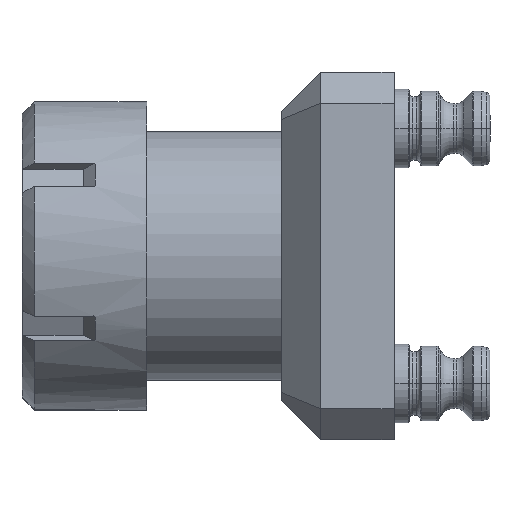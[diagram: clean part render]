
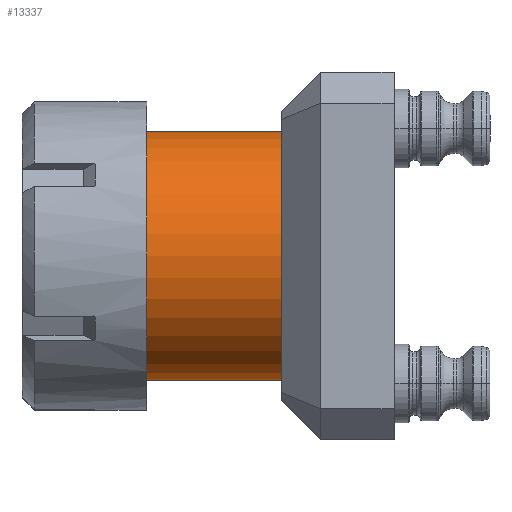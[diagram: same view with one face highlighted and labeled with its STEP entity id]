
A CAD part, left-side view. The second image highlights one B-rep face of the part: STEP entity #13337.
In plain terms, the highlighted cylindrical face has radius 25.4 mm (diameter 50.8 mm), a partial arc.
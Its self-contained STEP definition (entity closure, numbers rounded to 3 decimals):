
#85 = VERTEX_POINT ( 'NONE', #32307 ) ;
#262 = DIRECTION ( 'NONE',  ( 0., -1., 0. ) ) ;
#4504 = CIRCLE ( 'NONE', #30077, 25.4 ) ;
#4824 = EDGE_CURVE ( 'NONE', #85, #24536, #4504, .T. ) ;
#5232 = LINE ( 'NONE', #17178, #19314 ) ;
#5793 = LINE ( 'NONE', #19483, #27288 ) ;
#5929 = CARTESIAN_POINT ( 'NONE',  ( 0., -12.7, 0. ) ) ;
#6576 = DIRECTION ( 'NONE',  ( 0., -1., 0. ) ) ;
#8258 = DIRECTION ( 'NONE',  ( 0., -1., 0. ) ) ;
#8653 = CARTESIAN_POINT ( 'NONE',  ( 0., 19.05, 0. ) ) ;
#8705 = DIRECTION ( 'NONE',  ( 0., 0., -1. ) ) ;
#9249 = CARTESIAN_POINT ( 'NONE',  ( 0., 38.1, 0. ) ) ;
#9898 = AXIS2_PLACEMENT_3D ( 'NONE', #5929, #25542, #8705 ) ;
#10341 = CARTESIAN_POINT ( 'NONE',  ( 0., 19.05, 25.4 ) ) ;
#10722 = ORIENTED_EDGE ( 'NONE', *, *, #31108, .T. ) ;
#11510 = DIRECTION ( 'NONE',  ( 0., 0., 1. ) ) ;
#11869 = VERTEX_POINT ( 'NONE', #28084 ) ;
#13140 = FACE_OUTER_BOUND ( 'NONE', #23616, .T. ) ;
#13337 = ADVANCED_FACE ( 'NONE', ( #13140 ), #27148, .T. ) ;
#14091 = VERTEX_POINT ( 'NONE', #23716 ) ;
#14498 = EDGE_CURVE ( 'NONE', #11869, #14091, #19641, .T. ) ;
#14671 = ORIENTED_EDGE ( 'NONE', *, *, #4824, .F. ) ;
#16869 = ORIENTED_EDGE ( 'NONE', *, *, #20441, .F. ) ;
#17178 = CARTESIAN_POINT ( 'NONE',  ( 0., 38.1, -25.4 ) ) ;
#19314 = VECTOR ( 'NONE', #262, 1000. ) ;
#19483 = CARTESIAN_POINT ( 'NONE',  ( 0., 38.1, 25.4 ) ) ;
#19641 = CIRCLE ( 'NONE', #9898, 25.4 ) ;
#20441 = EDGE_CURVE ( 'NONE', #24536, #11869, #5793, .T. ) ;
#22804 = AXIS2_PLACEMENT_3D ( 'NONE', #9249, #6576, #28884 ) ;
#22818 = ORIENTED_EDGE ( 'NONE', *, *, #14498, .F. ) ;
#23616 = EDGE_LOOP ( 'NONE', ( #16869, #14671, #10722, #22818 ) ) ;
#23716 = CARTESIAN_POINT ( 'NONE',  ( 0., -12.7, -25.4 ) ) ;
#24536 = VERTEX_POINT ( 'NONE', #10341 ) ;
#25542 = DIRECTION ( 'NONE',  ( 0., -1., 0. ) ) ;
#27148 = CYLINDRICAL_SURFACE ( 'NONE', #22804, 25.4 ) ;
#27288 = VECTOR ( 'NONE', #8258, 1000. ) ;
#28084 = CARTESIAN_POINT ( 'NONE',  ( 0., -12.7, 25.4 ) ) ;
#28312 = DIRECTION ( 'NONE',  ( 0., 1., 0. ) ) ;
#28884 = DIRECTION ( 'NONE',  ( 0., 0., -1. ) ) ;
#30077 = AXIS2_PLACEMENT_3D ( 'NONE', #8653, #28312, #11510 ) ;
#31108 = EDGE_CURVE ( 'NONE', #85, #14091, #5232, .T. ) ;
#32307 = CARTESIAN_POINT ( 'NONE',  ( 0., 19.05, -25.4 ) ) ;
